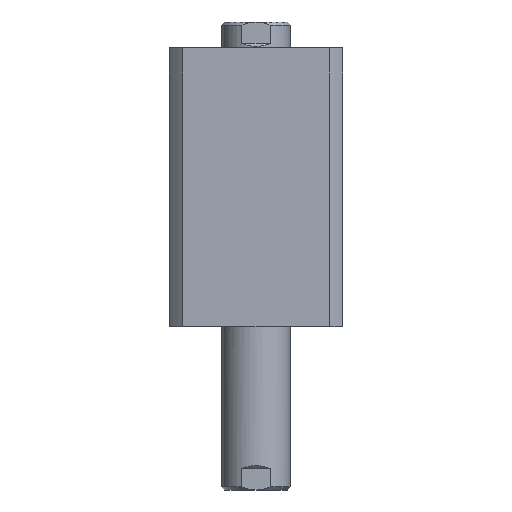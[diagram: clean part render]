
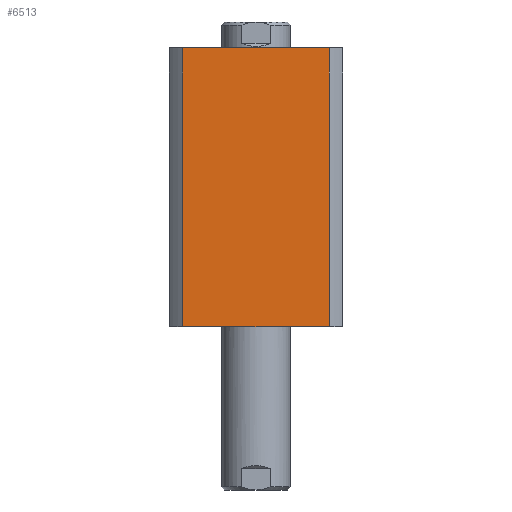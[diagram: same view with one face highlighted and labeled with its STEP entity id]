
A CAD part, left-side view. The second image highlights one B-rep face of the part: STEP entity #6513.
In plain terms, the highlighted planar face has unit normal (-1, 0, 0) as drawn and (0, 1, 0) by its records, which use the part's own axes.
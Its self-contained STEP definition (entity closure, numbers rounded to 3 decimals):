
#80 = DIRECTION ( 'NONE',  ( 0., -1., 0. ) ) ;
#288 = LINE ( 'NONE', #11840, #3162 ) ;
#420 = CARTESIAN_POINT ( 'NONE',  ( 47.971, 57., 0. ) ) ;
#954 = CARTESIAN_POINT ( 'NONE',  ( -47.971, 57., 0. ) ) ;
#1243 = AXIS2_PLACEMENT_3D ( 'NONE', #7374, #80, #8565 ) ;
#2335 = VECTOR ( 'NONE', #14095, 1000. ) ;
#2957 = ORIENTED_EDGE ( 'NONE', *, *, #8738, .F. ) ;
#3162 = VECTOR ( 'NONE', #5772, 1000. ) ;
#4028 = CARTESIAN_POINT ( 'NONE',  ( 47.971, 57., 183. ) ) ;
#5613 = FACE_OUTER_BOUND ( 'NONE', #12652, .T. ) ;
#5772 = DIRECTION ( 'NONE',  ( 0., 0., -1. ) ) ;
#5893 = CARTESIAN_POINT ( 'NONE',  ( 47.971, 57., -117. ) ) ;
#6150 = DIRECTION ( 'NONE',  ( -1., 0., 0. ) ) ;
#6161 = EDGE_CURVE ( 'NONE', #13211, #15418, #288, .T. ) ;
#6513 = ADVANCED_FACE ( 'NONE', ( #5613 ), #9681, .F. ) ;
#7113 = DIRECTION ( 'NONE',  ( 0., 0., 1. ) ) ;
#7374 = CARTESIAN_POINT ( 'NONE',  ( -57., 57., 183. ) ) ;
#8382 = VECTOR ( 'NONE', #7113, 1000. ) ;
#8565 = DIRECTION ( 'NONE',  ( 0., 0., -1. ) ) ;
#8738 = EDGE_CURVE ( 'NONE', #13000, #13211, #9171, .T. ) ;
#9171 = LINE ( 'NONE', #12981, #2335 ) ;
#9240 = VECTOR ( 'NONE', #6150, 1000. ) ;
#9356 = ORIENTED_EDGE ( 'NONE', *, *, #6161, .F. ) ;
#9610 = LINE ( 'NONE', #13434, #9240 ) ;
#9681 = PLANE ( 'NONE',  #1243 ) ;
#9741 = ORIENTED_EDGE ( 'NONE', *, *, #11645, .F. ) ;
#11645 = EDGE_CURVE ( 'NONE', #12175, #13000, #15601, .T. ) ;
#11840 = CARTESIAN_POINT ( 'NONE',  ( -47.971, 57., -117. ) ) ;
#12175 = VERTEX_POINT ( 'NONE', #420 ) ;
#12634 = ORIENTED_EDGE ( 'NONE', *, *, #14096, .T. ) ;
#12652 = EDGE_LOOP ( 'NONE', ( #9741, #12634, #9356, #2957 ) ) ;
#12981 = CARTESIAN_POINT ( 'NONE',  ( -57., 57., 183. ) ) ;
#13000 = VERTEX_POINT ( 'NONE', #4028 ) ;
#13211 = VERTEX_POINT ( 'NONE', #14211 ) ;
#13434 = CARTESIAN_POINT ( 'NONE',  ( -57., 57., 0. ) ) ;
#14095 = DIRECTION ( 'NONE',  ( -1., 0., 0. ) ) ;
#14096 = EDGE_CURVE ( 'NONE', #12175, #15418, #9610, .T. ) ;
#14211 = CARTESIAN_POINT ( 'NONE',  ( -47.971, 57., 183. ) ) ;
#15418 = VERTEX_POINT ( 'NONE', #954 ) ;
#15601 = LINE ( 'NONE', #5893, #8382 ) ;
